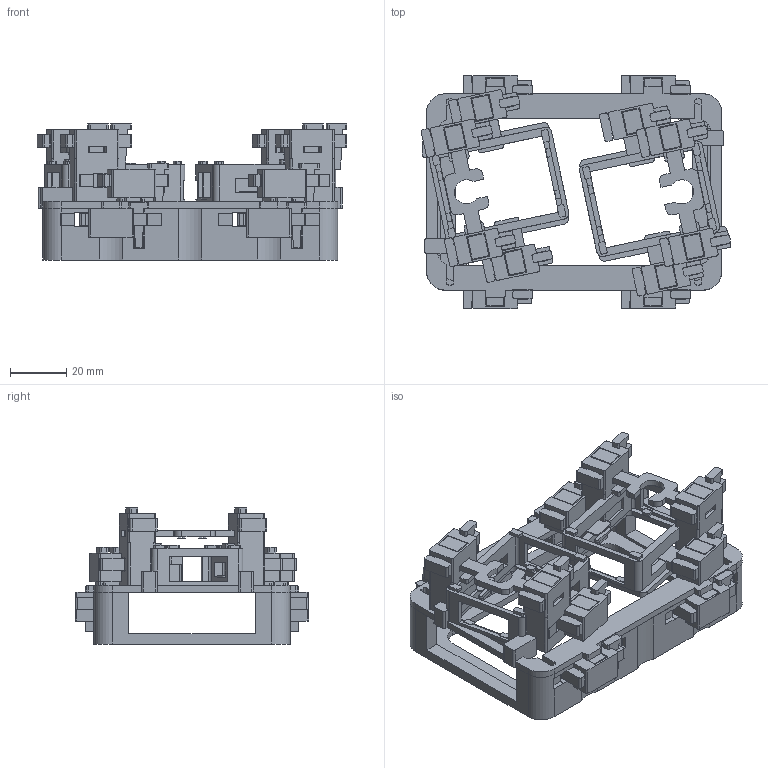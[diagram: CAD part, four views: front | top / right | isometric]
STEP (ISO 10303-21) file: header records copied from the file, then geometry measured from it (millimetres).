
FILE_DESCRIPTION(('Open CASCADE Model'),'2;1');
FILE_NAME('Open CASCADE Shape Model','2026-10-23T20:25:42',('Author'),( 'Open CASCADE'),'Open CASCADE STEP processor 7.8','Open CASCADE 7.8' ,'Unknown');
FILE_SCHEMA(('AUTOMOTIVE_DESIGN { 1 0 10303 214 1 1 1 1 }'));
Length unit declared in the file: millimetre
Products named in the file (31): Printed_parts_only_R03; 01_bank_cradle; 02_multigrip_carrier; 03_MB_keeper_left; 04_MB_keeper_right; 05_sensor_yoke_left; 06_sensor_yoke_right; 10_frame_1_pin; 10_frame_1_wedge; 10_frame_2_pin; 10_frame_2_wedge; 10_frame_3_pin; 10_frame_3_wedge; 10_frame_4_pin; 10_frame_4_wedge; 20_keeper_L_down_pin; 20_keeper_L_down_wedge; 20_keeper_L_up_pin; 20_keeper_L_up_wedge; 30_yoke_L_down_pin; 30_yoke_L_down_wedge; 30_yoke_L_up_pin; 30_yoke_L_up_wedge; 20_keeper_R_down_pin; 20_keeper_R_down_wedge; 20_keeper_R_up_pin; 20_keeper_R_up_wedge; 30_yoke_R_down_pin; 30_yoke_R_down_wedge; 30_yoke_R_up_pin; 30_yoke_R_up_wedge
Assembly tree (30 placements, depth 2):
  Printed_parts_only_R03
    01_bank_cradle
    02_multigrip_carrier
    03_MB_keeper_left
    04_MB_keeper_right
    05_sensor_yoke_left
    06_sensor_yoke_right
    10_frame_1_pin
    10_frame_1_wedge
    10_frame_2_pin
    10_frame_2_wedge
    10_frame_3_pin
    10_frame_3_wedge
    10_frame_4_pin
    10_frame_4_wedge
    20_keeper_L_down_pin
    20_keeper_L_down_wedge
    20_keeper_L_up_pin
    20_keeper_L_up_wedge
    30_yoke_L_down_pin
    30_yoke_L_down_wedge
    30_yoke_L_up_pin
    30_yoke_L_up_wedge
    20_keeper_R_down_pin
    20_keeper_R_down_wedge
    20_keeper_R_up_pin
    20_keeper_R_up_wedge
    30_yoke_R_down_pin
    30_yoke_R_down_wedge
    30_yoke_R_up_pin
    30_yoke_R_up_wedge
Bounding box: 109.78 x 82.8 x 48.25 mm (x, y, z)
Volume: 65814.2 mm3; surface area: 63523.7 mm2
Topology: 30 solids, 30 shells, 2090 faces, 6149 edges, 4082 vertices
Faces by surface type: plane 1339, cylinder 751
Entity records: 151789 total; most frequent: CARTESIAN_POINT 27923, DIRECTION 23467, LINE 15104, VECTOR 15104, ORIENTED_EDGE 12298, PCURVE 12298, DEFINITIONAL_REPRESENTATION 12298, EDGE_CURVE 6149
